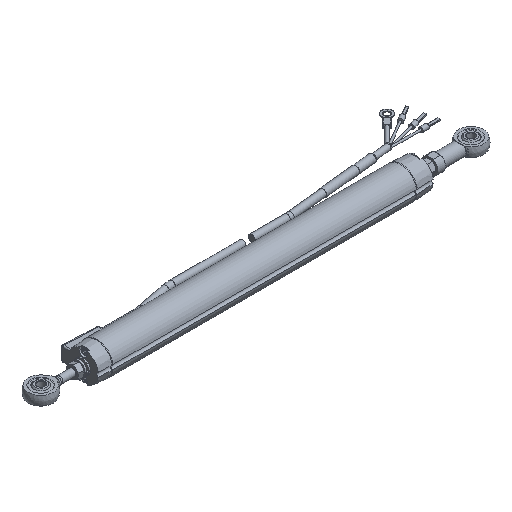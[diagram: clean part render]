
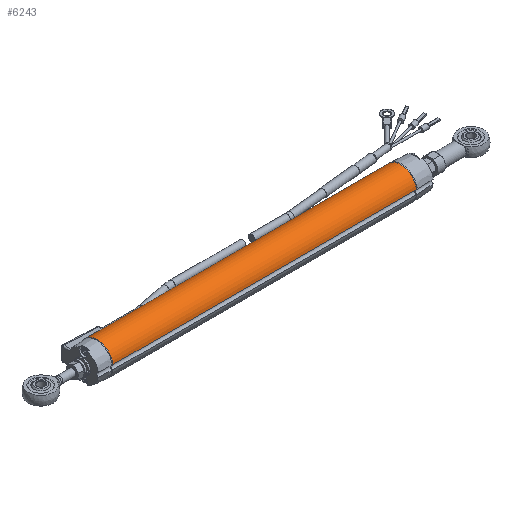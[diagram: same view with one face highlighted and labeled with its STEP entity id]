
A CAD part, isometric view. The second image highlights one B-rep face of the part: STEP entity #6243.
In plain terms, the highlighted cylindrical face has radius 11 mm (diameter 22 mm), a partial arc.
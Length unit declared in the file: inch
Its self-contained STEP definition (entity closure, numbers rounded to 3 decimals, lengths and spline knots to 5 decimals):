
#892=LINE('',#9017,#1083);
#893=LINE('',#9023,#1084);
#1083=VECTOR('',#7367,8.17299);
#1084=VECTOR('',#7374,8.17299);
#1438=FACE_OUTER_BOUND('',#1790,.T.);
#1790=EDGE_LOOP('',(#4297,#4298,#4299,#4300));
#2306=CIRCLE('',#6628,0.43307);
#2307=CIRCLE('',#6629,0.43307);
#2637=VERTEX_POINT('',#9014);
#2638=VERTEX_POINT('',#9016);
#2639=VERTEX_POINT('',#9020);
#2640=VERTEX_POINT('',#9022);
#3374=EDGE_CURVE('',#2638,#2637,#892,.T.);
#3376=EDGE_CURVE('',#2637,#2639,#2306,.T.);
#3377=EDGE_CURVE('',#2640,#2639,#893,.T.);
#3378=EDGE_CURVE('',#2640,#2638,#2307,.T.);
#4297=ORIENTED_EDGE('',*,*,#3376,.T.);
#4298=ORIENTED_EDGE('',*,*,#3377,.F.);
#4299=ORIENTED_EDGE('',*,*,#3378,.T.);
#4300=ORIENTED_EDGE('',*,*,#3374,.T.);
#6130=CYLINDRICAL_SURFACE('',#6627,0.43307);
#6243=ADVANCED_FACE('',(#1438),#6130,.T.);
#6627=AXIS2_PLACEMENT_3D('',#9019,#7370,#7371);
#6628=AXIS2_PLACEMENT_3D('',#9021,#7372,#7373);
#6629=AXIS2_PLACEMENT_3D('',#9024,#7375,#7376);
#7367=DIRECTION('',(1.,0.,0.));
#7370=DIRECTION('center_axis',(1.,0.,0.));
#7371=DIRECTION('ref_axis',(0.,0.99,0.139));
#7372=DIRECTION('center_axis',(-1.,0.,0.));
#7373=DIRECTION('ref_axis',(0.,0.99,0.139));
#7374=DIRECTION('',(1.,0.,0.));
#7375=DIRECTION('center_axis',(1.,0.,0.));
#7376=DIRECTION('ref_axis',(0.,0.99,0.139));
#9014=CARTESIAN_POINT('',(8.32575,-0.42889,0.06));
#9016=CARTESIAN_POINT('',(0.15276,-0.42889,0.06));
#9017=CARTESIAN_POINT('',(0.15276,-0.42889,0.06));
#9019=CARTESIAN_POINT('Origin',(0.15276,0.,0.));
#9020=CARTESIAN_POINT('',(8.32575,0.42889,0.06));
#9021=CARTESIAN_POINT('Origin',(8.32575,0.,0.));
#9022=CARTESIAN_POINT('',(0.15276,0.42889,0.06));
#9023=CARTESIAN_POINT('',(0.15276,0.42889,0.06));
#9024=CARTESIAN_POINT('Origin',(0.15276,0.,0.));
